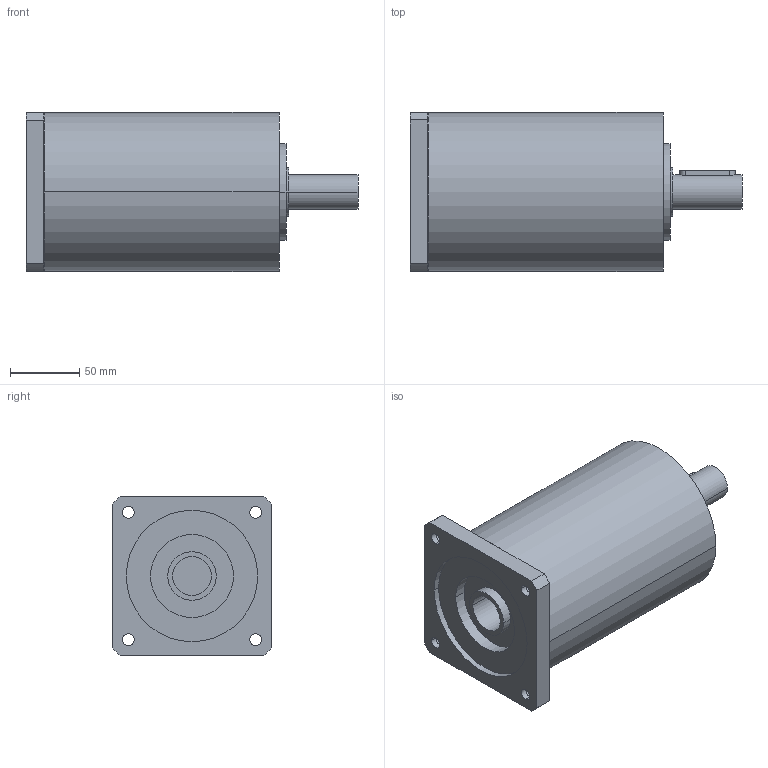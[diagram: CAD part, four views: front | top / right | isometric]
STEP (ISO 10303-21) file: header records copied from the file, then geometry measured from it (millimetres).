
FILE_DESCRIPTION(('CoCreate Modeling STEP Export'),'2;1');
FILE_NAME('GPR125_ig-9-12-16-20-28-35_25_B14_28_P18.stp','2014-08-26T14:11:44',(''),(''),'CoCreate Modeling STEP processor for AP214 (Solid Model)','CoCreate Modeling 16.00C 25-Feb-2009 (C) Parametric Technology GmbH','');
FILE_SCHEMA(('AUTOMOTIVE_DESIGN { 1 0 10303 214 1 1 1 1 }'));
Length unit declared in the file: millimetre
Products named in the file (2): GPR125_ig-9-12-16-20-28-35_25_B14_28_P18
Assembly tree (1 placements, depth 2):
  GPR125_ig-9-12-16-20-28-35_25_B14_28_P18
    GPR125_ig-9-12-16-20-28-35_25_B14_28_P18
Bounding box: 240 x 115 x 115 mm (x, y, z)
Volume: 1888862.1 mm3; surface area: 112027.1 mm2
Topology: 1 solids, 1 shells, 77 faces, 212 edges, 152 vertices
Faces by surface type: cylinder 48, plane 25, cone 4
Entity records: 2153 total; most frequent: ORIENTED_EDGE 420, CARTESIAN_POINT 399, DIRECTION 288, EDGE_CURVE 210, VERTEX_POINT 152, AXIS2_PLACEMENT_3D 109, EDGE_LOOP 102, FACE_OUTER_BOUND 77
